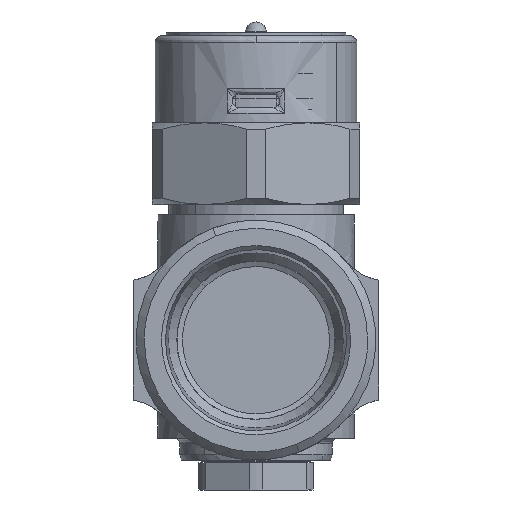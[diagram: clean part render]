
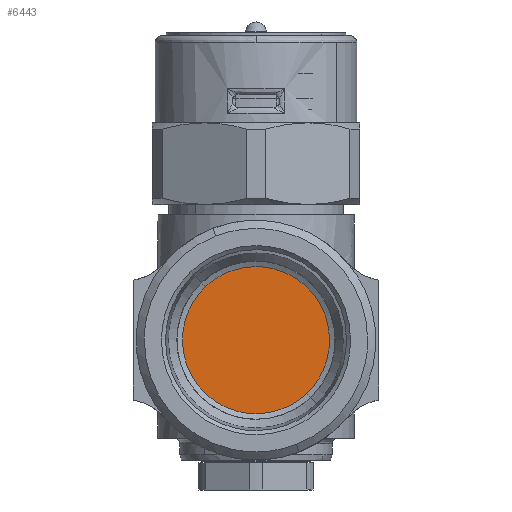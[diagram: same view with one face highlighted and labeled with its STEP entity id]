
A CAD part, left-side view. The second image highlights one B-rep face of the part: STEP entity #6443.
In plain terms, the highlighted free-form (B-spline) face has degree [1, 1] with [2, 2] control points.
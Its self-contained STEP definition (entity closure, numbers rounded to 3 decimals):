
#1123=CARTESIAN_POINT('',(-24.923,9.293,9.793));
#1124=VERTEX_POINT('',#1123);
#1180=CARTESIAN_POINT('',(-24.923,-9.293,-9.793));
#1181=VERTEX_POINT('',#1180);
#1187=CARTESIAN_POINT('',(-24.923,0.,-13.5));
#1188=VERTEX_POINT('',#1187);
#1189=CARTESIAN_POINT('',(-24.923,0.,-13.5));
#1190=CARTESIAN_POINT('',(-24.923,-0.747,-13.5));
#1191=CARTESIAN_POINT('',(-24.923,-2.349,-13.367));
#1192=CARTESIAN_POINT('',(-24.923,-4.499,-12.793));
#1193=CARTESIAN_POINT('',(-24.923,-6.254,-12.));
#1194=CARTESIAN_POINT('',(-24.923,-7.811,-11.061));
#1195=CARTESIAN_POINT('',(-24.923,-8.751,-10.307));
#1196=CARTESIAN_POINT('',(-24.923,-9.293,-9.793));
#1197=B_SPLINE_CURVE_WITH_KNOTS('',3,(#1189,#1190,#1191,#1192,#1193,#1194,#1195,#1196),.UNSPECIFIED.,.F.,.U.,(4,1,1,1,1,4),(0.,2.242,4.804,6.646,8.007,10.249),.UNSPECIFIED.);
#1198=EDGE_CURVE('',#1188,#1181,#1197,.T.);
#1200=CARTESIAN_POINT('',(-24.923,13.5,0.));
#1201=VERTEX_POINT('',#1200);
#1202=CARTESIAN_POINT('',(-24.923,13.5,0.));
#1203=CARTESIAN_POINT('',(-24.923,13.5,-1.022));
#1204=CARTESIAN_POINT('',(-24.923,13.302,-2.761));
#1205=CARTESIAN_POINT('',(-24.923,12.582,-5.032));
#1206=CARTESIAN_POINT('',(-24.923,11.776,-6.671));
#1207=CARTESIAN_POINT('',(-24.923,10.806,-8.152));
#1208=CARTESIAN_POINT('',(-24.923,9.424,-9.775));
#1209=CARTESIAN_POINT('',(-24.923,7.697,-11.174));
#1210=CARTESIAN_POINT('',(-24.923,5.982,-12.131));
#1211=CARTESIAN_POINT('',(-24.923,4.278,-12.856));
#1212=CARTESIAN_POINT('',(-24.923,2.319,-13.372));
#1213=CARTESIAN_POINT('',(-24.923,0.718,-13.5));
#1214=CARTESIAN_POINT('',(-24.923,0.,-13.5));
#1215=B_SPLINE_CURVE_WITH_KNOTS('',3,(#1202,#1203,#1204,#1205,#1206,#1207,#1208,#1209,#1210,#1211,#1212,#1213,#1214),.UNSPECIFIED.,.F.,.U.,(4,1,1,1,1,1,1,1,1,1,4),(0.,3.065,5.219,7.124,8.532,10.52,13.502,15.159,16.401,19.052,21.206),.UNSPECIFIED.);
#1216=EDGE_CURVE('',#1201,#1188,#1215,.T.);
#1218=CARTESIAN_POINT('',(-24.923,9.293,9.793));
#1219=CARTESIAN_POINT('',(-24.923,10.121,9.007));
#1220=CARTESIAN_POINT('',(-24.923,11.321,7.536));
#1221=CARTESIAN_POINT('',(-24.923,12.619,5.017));
#1222=CARTESIAN_POINT('',(-24.923,13.337,2.596));
#1223=CARTESIAN_POINT('',(-24.923,13.5,0.827));
#1224=CARTESIAN_POINT('',(-24.923,13.5,0.));
#1225=B_SPLINE_CURVE_WITH_KNOTS('',3,(#1218,#1219,#1220,#1221,#1222,#1223,#1224),.UNSPECIFIED.,.F.,.U.,(4,1,1,1,4),(0.,3.424,5.649,8.474,10.956),.UNSPECIFIED.);
#1226=EDGE_CURVE('',#1124,#1201,#1225,.T.);
#1250=CARTESIAN_POINT('',(-24.923,0.,13.5));
#1251=VERTEX_POINT('',#1250);
#1252=CARTESIAN_POINT('',(-24.923,0.,13.5));
#1253=CARTESIAN_POINT('',(-24.923,2.594,13.5));
#1254=CARTESIAN_POINT('',(-24.923,5.003,12.539));
#1255=CARTESIAN_POINT('',(-24.923,7.411,11.578));
#1256=CARTESIAN_POINT('',(-24.923,9.293,9.793));
#1264=(BOUNDED_CURVE()B_SPLINE_CURVE(2,(#1252,#1253,#1254,#1255,#1256),.UNSPECIFIED.,.F.,.U.)B_SPLINE_CURVE_WITH_KNOTS((3,2,3),(0.,0.5,1.),.UNSPECIFIED.)CURVE()GEOMETRIC_REPRESENTATION_ITEM()RATIONAL_B_SPLINE_CURVE((1.,0.982,1.,0.982,1.))REPRESENTATION_ITEM(''));
#1265=EDGE_CURVE('',#1251,#1124,#1264,.T.);
#1267=CARTESIAN_POINT('',(-24.923,-13.5,0.));
#1268=VERTEX_POINT('',#1267);
#1269=CARTESIAN_POINT('',(-24.923,-13.5,0.));
#1270=CARTESIAN_POINT('',(-24.923,-13.5,0.939));
#1271=CARTESIAN_POINT('',(-24.923,-13.347,2.402));
#1272=CARTESIAN_POINT('',(-24.923,-12.77,4.51));
#1273=CARTESIAN_POINT('',(-24.923,-11.941,6.445));
#1274=CARTESIAN_POINT('',(-24.923,-10.71,8.324));
#1275=CARTESIAN_POINT('',(-24.923,-9.391,9.744));
#1276=CARTESIAN_POINT('',(-24.923,-7.978,10.941));
#1277=CARTESIAN_POINT('',(-24.923,-6.485,11.899));
#1278=CARTESIAN_POINT('',(-24.923,-4.691,12.7));
#1279=CARTESIAN_POINT('',(-24.923,-2.595,13.322));
#1280=CARTESIAN_POINT('',(-24.923,-0.994,13.5));
#1281=CARTESIAN_POINT('',(-24.923,0.,13.5));
#1282=B_SPLINE_CURVE_WITH_KNOTS('',3,(#1269,#1270,#1271,#1272,#1273,#1274,#1275,#1276,#1277,#1278,#1279,#1280,#1281),.UNSPECIFIED.,.F.,.U.,(4,1,1,1,1,1,1,1,1,1,4),(0.,2.816,4.39,6.544,9.112,11.1,12.342,14.662,16.401,18.224,21.206),.UNSPECIFIED.);
#1283=EDGE_CURVE('',#1268,#1251,#1282,.T.);
#1285=CARTESIAN_POINT('',(-24.923,-9.293,-9.793));
#1286=CARTESIAN_POINT('',(-24.923,-9.79,-9.321));
#1287=CARTESIAN_POINT('',(-24.923,-10.826,-8.175));
#1288=CARTESIAN_POINT('',(-24.923,-12.129,-6.117));
#1289=CARTESIAN_POINT('',(-24.923,-12.981,-3.926));
#1290=CARTESIAN_POINT('',(-24.923,-13.414,-1.855));
#1291=CARTESIAN_POINT('',(-24.923,-13.5,-0.628));
#1292=CARTESIAN_POINT('',(-24.923,-13.5,0.));
#1293=B_SPLINE_CURVE_WITH_KNOTS('',3,(#1285,#1286,#1287,#1288,#1289,#1290,#1291,#1292),.UNSPECIFIED.,.F.,.U.,(4,1,1,1,1,4),(0.,2.054,4.622,7.276,9.073,10.956),.UNSPECIFIED.);
#1294=EDGE_CURVE('',#1181,#1268,#1293,.T.);
#6430=CARTESIAN_POINT('',(-24.923,-14.849,14.849));
#6431=CARTESIAN_POINT('',(-24.923,-14.849,-14.849));
#6432=CARTESIAN_POINT('',(-24.923,14.849,14.849));
#6433=CARTESIAN_POINT('',(-24.923,14.849,-14.849));
#6434=B_SPLINE_SURFACE_WITH_KNOTS('',1,1,((#6430,#6432),(#6431,#6433)),.UNSPECIFIED.,.F.,.F.,.U.,(2,2),(2,2),(0.,29.697),(0.,29.697),.UNSPECIFIED.);
#6435=ORIENTED_EDGE('',*,*,#1265,.T.);
#6436=ORIENTED_EDGE('',*,*,#1226,.T.);
#6437=ORIENTED_EDGE('',*,*,#1216,.T.);
#6438=ORIENTED_EDGE('',*,*,#1198,.T.);
#6439=ORIENTED_EDGE('',*,*,#1294,.T.);
#6440=ORIENTED_EDGE('',*,*,#1283,.T.);
#6441=EDGE_LOOP('',(#6435,#6436,#6437,#6438,#6439,#6440));
#6442=FACE_OUTER_BOUND('',#6441,.T.);
#6443=ADVANCED_FACE('',(#6442),#6434,.F.);
